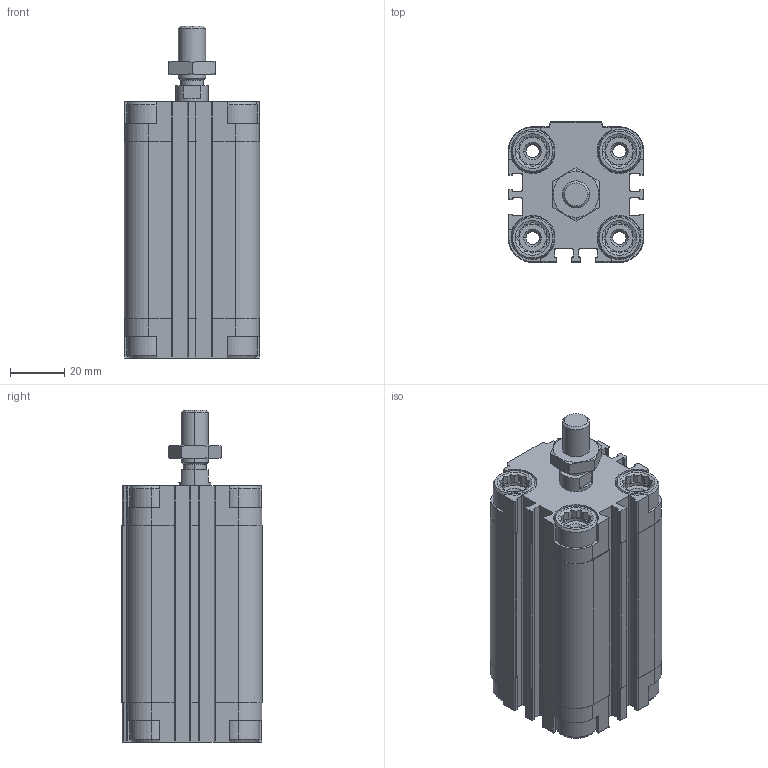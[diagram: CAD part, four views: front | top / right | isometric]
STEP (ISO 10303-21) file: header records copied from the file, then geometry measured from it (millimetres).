
FILE_DESCRIPTION (( 'STEP AP203' ), '1' );
FILE_NAME ('CDVU32-50.STEP', '2020-03-19T11:33:42', ( '' ), ( '' ), 'SwSTEP 2.0', 'SolidWorks 2019', '' );
FILE_SCHEMA (( 'CONFIG_CONTROL_DESIGN' ));
Length unit declared in the file: millimetre
Products named in the file (1): CDVU32-50
Bounding box: 50 x 52 x 122.5 mm (x, y, z)
Volume: 161729.1 mm3; surface area: 56727 mm2
Topology: 3 solids, 3 shells, 727 faces, 1932 edges, 1246 vertices
Faces by surface type: plane 425, cylinder 232, cone 70
Entity records: 22975 total; most frequent: CARTESIAN_POINT 4762, ORIENTED_EDGE 3856, DIRECTION 3712, EDGE_CURVE 1928, AXIS2_PLACEMENT_3D 1260, VERTEX_POINT 1246, LINE 1192, VECTOR 1192
